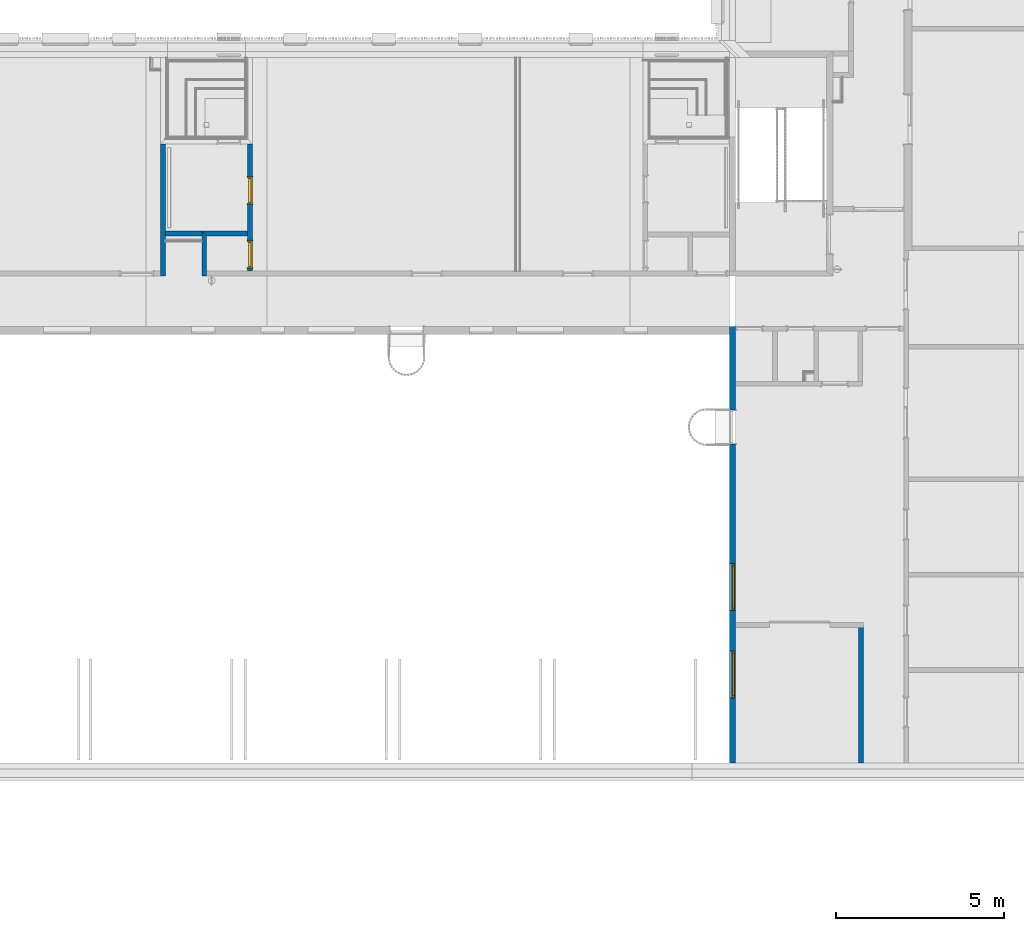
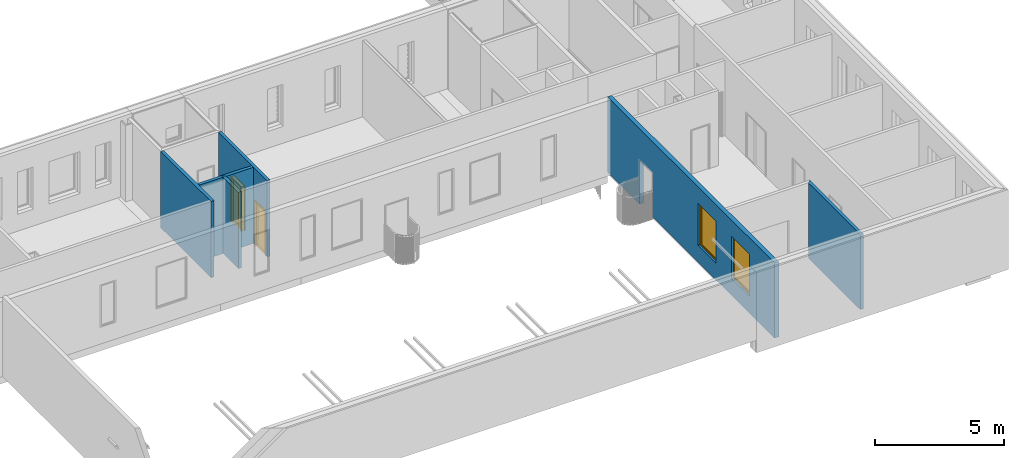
# One storey, part 7 of 100: 7 walls, 2 doors, 2 windows, 5 openings.
"""IFC2X3 building model written with IfcOpenShell, lengths in millimetres."""

from ifc_helpers import new_model, entity, si_unit, converted_unit, derived_unit, money_unit, direction, frame, origin_with_axes, origin_2d_with_axis, place, context, subcontext, project, spatial, polyline, rectangle, outline, extrude, open_shell, faceted_brep, surface_model, source, transform, mapped, material, layer, layer_set, layer_usage, type_object, element, fill, save


model = new_model("IFC2X3")

# Units and contexts
model_context = context("Model", 3, precision=0.01, world=origin_with_axes(), true_north=direction((0.0, 1.0)))
body_context = subcontext(model_context, "Body", "Model", "MODEL_VIEW")
ifc_project = project(units=[si_unit("LENGTHUNIT", "METRE", prefix="MILLI"), si_unit("AREAUNIT", "SQUARE_METRE"), si_unit("VOLUMEUNIT", "CUBIC_METRE"), converted_unit("PLANEANGLEUNIT", "DEGREE", entity("IfcPlaneAngleMeasure", 0.0174532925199), si_unit("PLANEANGLEUNIT", "RADIAN"), dimensions=[0, 0, 0, 0, 0, 0, 0]), si_unit("SOLIDANGLEUNIT", "STERADIAN"), money_unit("EUR"), converted_unit("TIMEUNIT", "Year", entity("IfcTimeMeasure", 31556926.0), si_unit("TIMEUNIT", "SECOND"), dimensions=[0, 0, 1, 0, 0, 0, 0]), si_unit("MASSUNIT", "GRAM", prefix="KILO"), si_unit("THERMODYNAMICTEMPERATUREUNIT", "DEGREE_CELSIUS"), si_unit("LUMINOUSINTENSITYUNIT", "LUMEN"), si_unit("ENERGYUNIT", "JOULE", prefix="MEGA"), derived_unit("THERMALCONDUCTANCEUNIT", [(si_unit("POWERUNIT", "WATT"), 1), (si_unit("LENGTHUNIT", "METRE"), -1), (si_unit("THERMODYNAMICTEMPERATUREUNIT", "KELVIN"), -1)]), derived_unit("SPECIFICHEATCAPACITYUNIT", [(si_unit("ENERGYUNIT", "JOULE"), 1), (si_unit("MASSUNIT", "GRAM", prefix="KILO"), -1), (si_unit("THERMODYNAMICTEMPERATUREUNIT", "KELVIN"), -1)]), derived_unit("MASSDENSITYUNIT", [(si_unit("MASSUNIT", "GRAM", prefix="KILO"), 1), (si_unit("VOLUMEUNIT", "CUBIC_METRE"), -1)])], contexts=[model_context])

# Site, building, storey
site_placement = place(None, origin_with_axes())
site = spatial("IfcSite", under=ifc_project, at=site_placement, Name="Politse- ja Piirivalveameti ning Päästeameti ühishoone", CompositionType="ELEMENT")
building_placement = place(site_placement, origin_with_axes())
building = spatial("IfcBuilding", under=site, at=building_placement, Name="Politse- ja Piirivalveameti ning Päästeameti ühishoone", CompositionType="ELEMENT")
storey_placement = place(building_placement, frame((0.0, 0.0, 3800.0), z_axis=(0.0, 0.0, 1.0), x_axis=(1.0, 0.0, 0.0)))
storey = spatial("IfcBuildingStorey", under=building, at=storey_placement, Name="Teine korrus", CompositionType="ELEMENT", Elevation=3800.0)

# Wall, openings, windows
ifc_material = material(Name="KON-05_Betoon Plokk - Konstuktsioon")
ifc_layer_1 = layer(ifc_material, 190.0, ventilated="UNKNOWN")
ifc_layer_set_1 = layer_set([ifc_layer_1], Name="SS-03_Sisesein 190")
ifc_layer_usage_1 = layer_usage(ifc_layer_set_1, "AXIS2", "POSITIVE", -190.0)
wall_type_1 = type_object("IfcWallType", Name="SS-03_Sisesein 190 190", PredefinedType="NOTDEFINED")
wall_1_placement = place(storey_placement, frame((60160.5519118, 13000.0198611, 0.0), z_axis=(0.0, 0.0, 1.0), x_axis=(0.0, -1.0, 0.0)))
wall_1 = element("IfcWallStandardCase", 1, at=wall_1_placement, inside=storey, type_object=wall_type_1, material=ifc_layer_usage_1, Name="SS-03", context=body_context, shape_type="SweptSolid", body=[
    extrude(outline(polyline([(0.0, -190.0), (13000.0198611, -190.0), (13000.0198611, 0.0), (0.0, 0.0), (0.0, -190.0)])), origin_with_axes(), (0.0, 0.0, 1.0), 3575.0),
])
opening_1_placement = place(wall_1_placement, frame((7758.22460403, 0.0, 800.0), z_axis=(0.0, 0.0, 1.0), x_axis=(1.0, 0.0, 0.0)))
opening_1 = element("IfcOpeningElement", 2, at=opening_1_placement, cuts=wall_1, Name="TA-02", context=body_context, shape_type="SweptSolid", body=[
    extrude(rectangle(XDim=1400.0, YDim=2000.0, at=origin_2d_with_axis()), frame((0.0, -110.0, 1000.0), z_axis=(0.0, 1.0, 0.0), x_axis=(-1.0, 0.0, 0.0)), (0.0, 0.0, 1.0), 300.0),
    extrude(rectangle(XDim=1400.0, YDim=2000.0, at=origin_2d_with_axis()), frame((0.0, -110.0, 1000.0), z_axis=(0.0, -1.0, 0.0), x_axis=(-1.0, 0.0, 0.0)), (0.0, 0.0, 1.0), 270.0),
])
opening_2_placement = place(wall_1_placement, frame((10358.4213478, 0.0, 800.0), z_axis=(0.0, 0.0, 1.0), x_axis=(1.0, 0.0, 0.0)))
opening_2 = element("IfcOpeningElement", 3, at=opening_2_placement, cuts=wall_1, Name="TA-02", context=body_context, shape_type="SweptSolid", body=[
    extrude(rectangle(XDim=1400.0, YDim=2000.0, at=origin_2d_with_axis()), frame((0.0, -110.0, 1000.0), z_axis=(0.0, 1.0, 0.0), x_axis=(-1.0, 0.0, 0.0)), (0.0, 0.0, 1.0), 300.0),
    extrude(rectangle(XDim=1400.0, YDim=2000.0, at=origin_2d_with_axis()), frame((0.0, -110.0, 1000.0), z_axis=(0.0, -1.0, 0.0), x_axis=(-1.0, 0.0, 0.0)), (0.0, 0.0, 1.0), 270.0),
])
opening_3_placement = place(wall_1_placement, frame((2996.3926058, 0.0, 0.0), z_axis=(0.0, 0.0, 1.0), x_axis=(1.0, 0.0, 0.0)))
element("IfcOpeningElement", 4, at=opening_3_placement, cuts=wall_1, Name="TU-01-9", context=body_context, shape_type="SweptSolid", body=[
    extrude(rectangle(XDim=1000.0, YDim=2100.0, at=origin_2d_with_axis()), frame((0.0, 190.0, 1050.0), z_axis=(0.0, -1.0, 0.0), x_axis=(-1.0, 0.0, 0.0)), (0.0, 0.0, 1.0), 570.0),
    extrude(rectangle(XDim=1074.0, YDim=2137.0, at=origin_2d_with_axis()), frame((0.0, 0.0, 1068.5), z_axis=(0.0, -1.0, 0.0), x_axis=(-1.0, 0.0, 0.0)), (0.0, 0.0, -1.0), 190.0),
    extrude(rectangle(XDim=1074.0, YDim=2137.0, at=origin_2d_with_axis()), frame((0.0, -190.0, 1068.5), z_axis=(0.0, 1.0, 0.0), x_axis=(-1.0, 0.0, 0.0)), (0.0, 0.0, -1.0), 190.0),
])
window_style = type_object("IfcWindowStyle", Name="Window 23", ConstructionType="NOTDEFINED", OperationType="SINGLE_PANEL", ParameterTakesPrecedence=False, Sizeable=False)
shared_shape_1 = source(origin_with_axes(), body_context, "Body", "SurfaceModel", [
    faceted_brep([(675.0, 0.0, 1950.0), (675.0, -25.0, 1950.0), (650.0, -25.0, 1950.0), (650.0, -50.0, 1950.0), (700.0, -50.0, 1950.0), (700.0, 0.0, 1950.0), (675.0, 0.0, 50.0), (675.0, -25.0, 50.0), (650.0, -25.0, 50.0), (650.0, -50.0, 50.0), (700.0, -50.0, 50.0), (700.0, 0.0, 50.0)], [[[0, 1, 2, 3, 4, 5]], [[1, 0, 6, 7]], [[8, 2, 1, 7]], [[2, 8, 9, 3]], [[4, 3, 9, 10]], [[5, 4, 10, 11]], [[6, 0, 5, 11]], [[7, 6, 11, 10, 9, 8]]]),
    faceted_brep([(-650.0, -25.0, 1950.0), (-675.0, -25.0, 1950.0), (-675.0, 0.0, 1950.0), (-700.0, 0.0, 1950.0), (-700.0, -50.0, 1950.0), (-650.0, -50.0, 1950.0), (-650.0, -25.0, 50.0), (-675.0, -25.0, 50.0), (-675.0, 0.0, 50.0), (-700.0, 0.0, 50.0), (-700.0, -50.0, 50.0), (-650.0, -50.0, 50.0)], [[[0, 1, 2, 3, 4, 5]], [[1, 0, 6, 7]], [[8, 2, 1, 7]], [[2, 8, 9, 3]], [[9, 10, 4, 3]], [[10, 11, 5, 4]], [[6, 0, 5, 11]], [[7, 6, 11, 10, 9, 8]]]),
    faceted_brep([(-650.0, -25.0, 50.0), (-675.0, -25.0, 50.0), (-675.0, 0.0, 50.0), (-700.0, 0.0, 50.0), (-700.0, -50.0, 50.0), (-650.0, -50.0, 50.0), (650.0, -25.0, 50.0), (675.0, -25.0, 50.0), (675.0, -25.0, 25.0), (-675.0, -25.0, 25.0), (-675.0, 0.0, 25.0), (675.0, 0.0, 25.0), (675.0, 0.0, 50.0), (700.0, 0.0, 50.0), (700.0, 0.0, 0.0), (-700.0, 0.0, 0.0), (-700.0, -50.0, 0.0), (700.0, -50.0, 50.0), (650.0, -50.0, 50.0), (700.0, -50.0, 0.0)], [[[0, 1, 2, 3, 4, 5]], [[1, 0, 6, 7, 8, 9]], [[10, 2, 1, 9]], [[11, 12, 13, 14, 15, 3, 2, 10]], [[15, 16, 4, 3]], [[17, 18, 5, 4, 16, 19]], [[6, 0, 5, 18]], [[7, 6, 18, 17, 13, 12]], [[7, 12, 11, 8]], [[11, 10, 9, 8]], [[13, 17, 19, 14]], [[14, 19, 16, 15]]]),
    faceted_brep([(675.0, 0.0, 1950.0), (675.0, 0.0, 1975.0), (-675.0, 0.0, 1975.0), (-675.0, 0.0, 1950.0), (-700.0, 0.0, 1950.0), (-700.0, 0.0, 2000.0), (700.0, 0.0, 2000.0), (700.0, 0.0, 1950.0), (675.0, -25.0, 1950.0), (675.0, -25.0, 1975.0), (-675.0, -25.0, 1975.0), (-675.0, -25.0, 1950.0), (-650.0, -25.0, 1950.0), (-650.0, -50.0, 1950.0), (-700.0, -50.0, 1950.0), (-700.0, -50.0, 2000.0), (700.0, -50.0, 2000.0), (700.0, -50.0, 1950.0), (650.0, -50.0, 1950.0), (650.0, -25.0, 1950.0)], [[[0, 1, 2, 3, 4, 5, 6, 7]], [[1, 0, 8, 9]], [[2, 1, 9, 10]], [[3, 2, 10, 11]], [[11, 12, 13, 14, 4, 3]], [[4, 14, 15, 5]], [[5, 15, 16, 6]], [[6, 16, 17, 7]], [[8, 0, 7, 17, 18, 19]], [[12, 11, 10, 9, 8, 19]], [[12, 19, 18, 13]], [[14, 13, 18, 17, 16, 15]]]),
    faceted_brep([(625.0, -25.0, 1925.0), (675.0, -25.0, 1925.0), (675.0, 25.0, 1925.0), (625.0, 25.0, 1925.0), (625.0, -25.0, 75.0), (675.0, -25.0, 75.0), (675.0, 25.0, 75.0), (625.0, 25.0, 75.0)], [[[0, 1, 2, 3]], [[0, 4, 5, 1]], [[1, 5, 6, 2]], [[3, 2, 6, 7]], [[4, 0, 3, 7]], [[5, 4, 7, 6]]]),
    faceted_brep([(-625.0, -25.0, 75.0), (-675.0, -25.0, 75.0), (-675.0, 25.0, 75.0), (-625.0, 25.0, 75.0), (-625.0, -25.0, 1925.0), (-675.0, -25.0, 1925.0), (-675.0, 25.0, 1925.0), (-625.0, 25.0, 1925.0)], [[[0, 1, 2, 3]], [[0, 4, 5, 1]], [[1, 5, 6, 2]], [[3, 2, 6, 7]], [[4, 0, 3, 7]], [[5, 4, 7, 6]]]),
    faceted_brep([(-675.0, -25.0, 25.0), (-675.0, -25.0, 75.0), (-675.0, 25.0, 75.0), (-675.0, 25.0, 25.0), (675.0, -25.0, 25.0), (675.0, -25.0, 75.0), (625.0, -25.0, 75.0), (-625.0, -25.0, 75.0), (-625.0, 25.0, 75.0), (625.0, 25.0, 75.0), (675.0, 25.0, 75.0), (675.0, 25.0, 25.0)], [[[0, 1, 2, 3]], [[0, 4, 5, 6, 7, 1]], [[1, 7, 8, 2]], [[3, 2, 8, 9, 10, 11]], [[4, 0, 3, 11]], [[5, 4, 11, 10]], [[6, 5, 10, 9]], [[7, 6, 9, 8]]]),
    faceted_brep([(675.0, -25.0, 1975.0), (675.0, -25.0, 1925.0), (675.0, 25.0, 1925.0), (675.0, 25.0, 1975.0), (-675.0, -25.0, 1975.0), (-675.0, -25.0, 1925.0), (-625.0, -25.0, 1925.0), (625.0, -25.0, 1925.0), (625.0, 25.0, 1925.0), (-625.0, 25.0, 1925.0), (-675.0, 25.0, 1925.0), (-675.0, 25.0, 1975.0)], [[[0, 1, 2, 3]], [[0, 4, 5, 6, 7, 1]], [[1, 7, 8, 2]], [[3, 2, 8, 9, 10, 11]], [[4, 0, 3, 11]], [[5, 4, 11, 10]], [[6, 5, 10, 9]], [[7, 6, 9, 8]]]),
    surface_model("IfcShellBasedSurfaceModel", [(625.0, -10.0, 75.0), (625.0, -10.0, 1925.0), (-625.0, -10.0, 1925.0), (-625.0, -10.0, 75.0)], [open_shell([[[0, 1, 2, 3]]])]),
    surface_model("IfcShellBasedSurfaceModel", [(625.0, 10.0, 75.0), (-625.0, 10.0, 75.0), (-625.0, 10.0, 1925.0), (625.0, 10.0, 1925.0)], [open_shell([[[0, 1, 2, 3]]])]),
])
window_1_placement = place(opening_1_placement, frame((-700.0, 0.0, 0.0), z_axis=(0.0, 0.0, 1.0), x_axis=(1.0, 0.0, 0.0)))
window_1 = element("IfcWindow", 5, at=window_1_placement, inside=storey, type_object=window_style, Name="TA-02", ObjectType="WINDOW", OverallHeight=2000.0, OverallWidth=1400.0, context=body_context, shape_type="MappedRepresentation", body=[
    mapped(shared_shape_1, transform((700.0, -60.0, 0.0))),
])
fill(opening_1, window_1)
window_2_placement = place(opening_2_placement, frame((-700.0, 0.0, 0.0), z_axis=(0.0, 0.0, 1.0), x_axis=(1.0, 0.0, 0.0)))
window_2 = element("IfcWindow", 6, at=window_2_placement, inside=storey, type_object=window_style, Name="TA-02", ObjectType="WINDOW", OverallHeight=2000.0, OverallWidth=1400.0, context=body_context, shape_type="MappedRepresentation", body=[
    mapped(shared_shape_1, transform((700.0, -60.0, 0.0))),
])
fill(opening_2, window_2)

# Walls
ifc_layer_2 = layer(ifc_material, 140.0, ventilated="UNKNOWN")
ifc_layer_set_2 = layer_set([ifc_layer_2], Name="SS-02_Sisesein 140")
ifc_layer_usage_2 = layer_usage(ifc_layer_set_2, "AXIS2", "NEGATIVE", 0.0)
wall_type_2 = type_object("IfcWallType", Name="SS-02_Sisesein 140 140", PredefinedType="NOTDEFINED")
wall_2_placement = place(storey_placement, frame((45773.4114692, 15690.0421528, 0.0), z_axis=(0.0, 0.0, 1.0), x_axis=(-1.0, 0.0, 0.0)))
element("IfcWallStandardCase", 7, at=wall_2_placement, inside=storey, type_object=wall_type_2, material=ifc_layer_usage_2, Name="SS-02", context=body_context, shape_type="SweptSolid", body=[
    extrude(outline(polyline([(140.0, -140.0), (1502.91487033, -140.0), (1362.91487033, 0.0), (140.0, 0.0), (140.0, -140.0)])), origin_with_axes(), (0.0, 0.0, 1.0), 3620.0),
])
ifc_layer_usage_3 = layer_usage(ifc_layer_set_2, "AXIS2", "NEGATIVE", 0.0)
wall_3_placement = place(storey_placement, frame((44410.4965988, 15690.0421528, 0.0), z_axis=(0.0, 0.0, 1.0), x_axis=(0.0, -1.0, 0.0)))
element("IfcWallStandardCase", 8, at=wall_3_placement, inside=storey, type_object=wall_type_2, material=ifc_layer_usage_3, Name="SS-02", context=body_context, shape_type="SweptSolid", body=[
    extrude(outline(polyline([(-140.0, -140.0), (1190.0, -140.0), (1190.0, 0.0), (0.0, 0.0), (-140.0, -140.0)])), origin_with_axes(), (0.0, 0.0, 1.0), 3620.0),
])
ifc_layer_usage_4 = layer_usage(ifc_layer_set_2, "AXIS2", "NEGATIVE", 0.0)
wall_4_placement = place(storey_placement, frame((63960.5595507, 4040.01986111, 0.0), z_axis=(0.0, 0.0, 1.0), x_axis=(0.0, -1.0, 0.0)))
element("IfcWallStandardCase", 9, at=wall_4_placement, inside=storey, type_object=wall_type_2, material=ifc_layer_usage_4, Name="SS-02", context=body_context, shape_type="SweptSolid", body=[
    extrude(outline(polyline([(0.0, -140.0), (4040.01986111, -140.0), (4040.01986111, 0.0), (-140.0, 0.0), (0.0, -140.0)])), origin_with_axes(), (0.0, 0.0, 1.0), 3575.0),
])
ifc_layer_usage_5 = layer_usage(ifc_layer_set_2, "AXIS2", "NEGATIVE", 0.0)
wall_5_placement = place(storey_placement, frame((43183.4114692, 18430.0421528, 0.0), z_axis=(0.0, 0.0, 1.0), x_axis=(0.0, -1.0, 0.0)))
element("IfcWallStandardCase", 10, at=wall_5_placement, inside=storey, type_object=wall_type_2, material=ifc_layer_usage_5, Name="SS-02", context=body_context, shape_type="SweptSolid", body=[
    extrude(outline(polyline([(0.0, -140.0), (3930.0, -140.0), (3930.0, 0.0), (0.0, 0.0), (0.0, -140.0)])), origin_with_axes(), (0.0, 0.0, 1.0), 3620.0),
])

# Wall, openings, doors
ifc_layer_usage_6 = layer_usage(ifc_layer_set_2, "AXIS2", "NEGATIVE", 0.0)
wall_6_placement = place(storey_placement, frame((45773.4114692, 18430.0421528, 0.0), z_axis=(0.0, 0.0, 1.0), x_axis=(0.0, -1.0, 0.0)))
wall_6 = element("IfcWallStandardCase", 11, at=wall_6_placement, inside=storey, type_object=wall_type_2, material=ifc_layer_usage_6, Name="SS-02", context=body_context, shape_type="SweptSolid", body=[
    extrude(outline(polyline([(0.0, -140.0), (3790.0, -140.0), (3790.0, 0.0), (0.0, 0.0), (0.0, -140.0)])), origin_with_axes(), (0.0, 0.0, 1.0), 3620.0),
])
opening_4_placement = place(wall_6_placement, frame((3289.70410351, 0.0, 0.0), z_axis=(0.0, 0.0, 1.0), x_axis=(1.0, 0.0, 0.0)))
opening_4 = element("IfcOpeningElement", 12, at=opening_4_placement, cuts=wall_6, Name="SU-02-1", context=body_context, shape_type="SweptSolid", body=[
    extrude(rectangle(XDim=800.0, YDim=2100.0, at=origin_2d_with_axis()), frame((0.0, -140.0, 1050.0), z_axis=(0.0, 1.0, 0.0), x_axis=(1.0, 0.0, 0.0)), (0.0, 0.0, 1.0), 420.0),
    extrude(rectangle(XDim=874.0, YDim=2137.0, at=origin_2d_with_axis()), frame((0.0, -140.0, 1068.5), z_axis=(0.0, 1.0, 0.0), x_axis=(1.0, 0.0, 0.0)), (0.0, 0.0, -1.0), 140.0),
    extrude(rectangle(XDim=874.0, YDim=2137.0, at=origin_2d_with_axis()), frame((0.0, 0.0, 1068.5), z_axis=(0.0, -1.0, 0.0), x_axis=(1.0, 0.0, 0.0)), (0.0, 0.0, -1.0), 140.0),
])
opening_5_placement = place(wall_6_placement, frame((1389.81854322, 0.0, 0.0), z_axis=(0.0, 0.0, 1.0), x_axis=(1.0, 0.0, 0.0)))
opening_5 = element("IfcOpeningElement", 13, at=opening_5_placement, cuts=wall_6, Name="SU-01-5", context=body_context, shape_type="SweptSolid", body=[
    extrude(rectangle(XDim=800.0, YDim=2100.0, at=origin_2d_with_axis()), frame((0.0, -140.0, 1050.0), z_axis=(0.0, -1.0, 0.0), x_axis=(-1.0, 0.0, 0.0)), (0.0, 0.0, -1.0), 420.0),
    extrude(rectangle(XDim=874.0, YDim=2137.0, at=origin_2d_with_axis()), frame((0.0, -140.0, 1068.5), z_axis=(0.0, -1.0, 0.0), x_axis=(-1.0, 0.0, 0.0)), (0.0, 0.0, 1.0), 140.0),
    extrude(rectangle(XDim=874.0, YDim=2137.0, at=origin_2d_with_axis()), frame((0.0, 0.0, 1068.5), z_axis=(0.0, 1.0, 0.0), x_axis=(-1.0, 0.0, 0.0)), (0.0, 0.0, 1.0), 140.0),
])
door_style_1 = type_object("IfcDoorStyle", Name="Door 23", ConstructionType="NOTDEFINED", OperationType="SINGLE_SWING_RIGHT", ParameterTakesPrecedence=False, Sizeable=False)
shared_shape_2 = source(origin_with_axes(), body_context, "Body", "Brep", [
    faceted_brep([(372.0, -40.0, 0.0), (372.0, -40.0, 12.0), (360.0, -40.0, 12.0), (360.0, -40.0, 0.0), (-372.0, -40.0, 0.0), (-372.0, -40.0, 12.0), (-360.0, -40.0, 12.0), (-360.0, -115.0, 12.0), (360.0, -115.0, 12.0), (360.0, -115.0, 0.0), (-360.0, -115.0, 0.0), (-360.0, -40.0, 0.0)], [[[0, 1, 2, 3]], [[4, 5, 1, 0]], [[1, 5, 6, 7, 8, 2]], [[3, 2, 8, 9]], [[0, 3, 9, 10, 11, 4]], [[11, 6, 5, 4]], [[10, 7, 6, 11]], [[9, 8, 7, 10]]]),
    faceted_brep([(-400.0, -115.0, 0.0), (-375.0, -115.0, 0.0), (-375.0, -140.0, 0.0), (-400.0, -140.0, 0.0), (-400.0, -115.0, 2100.0), (-375.0, -115.0, 2075.0), (-375.0, -140.0, 2075.0), (-400.0, -140.0, 2100.0)], [[[0, 1, 2, 3]], [[0, 4, 5, 1]], [[1, 5, 6, 2]], [[3, 2, 6, 7]], [[4, 0, 3, 7]], [[5, 4, 7, 6]]]),
    faceted_brep([(400.0, -115.0, 2100.0), (375.0, -115.0, 2075.0), (375.0, -140.0, 2075.0), (400.0, -140.0, 2100.0), (400.0, -115.0, 0.0), (375.0, -115.0, 0.0), (375.0, -140.0, 0.0), (400.0, -140.0, 0.0)], [[[0, 1, 2, 3]], [[0, 4, 5, 1]], [[1, 5, 6, 2]], [[3, 2, 6, 7]], [[4, 0, 3, 7]], [[5, 4, 7, 6]]]),
    faceted_brep([(-375.0, -115.0, 2075.0), (375.0, -115.0, 2075.0), (375.0, -140.0, 2075.0), (-375.0, -140.0, 2075.0), (-400.0, -115.0, 2100.0), (400.0, -115.0, 2100.0), (400.0, -140.0, 2100.0), (-400.0, -140.0, 2100.0)], [[[0, 1, 2, 3]], [[0, 4, 5, 1]], [[1, 5, 6, 2]], [[3, 2, 6, 7]], [[4, 0, 3, 7]], [[5, 4, 7, 6]]]),
    faceted_brep([(-437.0, -159.0, 0.0), (-437.0, -140.0, 0.0), (-387.0, -140.0, 0.0), (-387.0, -159.0, 0.0), (-437.0, -159.0, 2137.0), (-437.0, -140.0, 2137.0), (-387.0, -140.0, 2087.0), (-387.0, -159.0, 2087.0)], [[[0, 1, 2, 3]], [[4, 5, 1, 0]], [[1, 5, 6, 2]], [[3, 2, 6, 7]], [[0, 3, 7, 4]], [[7, 6, 5, 4]]]),
    faceted_brep([(437.0, -159.0, 2137.0), (437.0, -140.0, 2137.0), (387.0, -140.0, 2087.0), (387.0, -159.0, 2087.0), (437.0, -159.0, 0.0), (437.0, -140.0, 0.0), (387.0, -140.0, 0.0), (387.0, -159.0, 0.0)], [[[0, 1, 2, 3]], [[4, 5, 1, 0]], [[1, 5, 6, 2]], [[3, 2, 6, 7]], [[0, 3, 7, 4]], [[7, 6, 5, 4]]]),
    faceted_brep([(-437.0, -159.0, 2137.0), (-437.0, -140.0, 2137.0), (-387.0, -140.0, 2087.0), (-387.0, -159.0, 2087.0), (437.0, -159.0, 2137.0), (437.0, -140.0, 2137.0), (387.0, -140.0, 2087.0), (387.0, -159.0, 2087.0)], [[[0, 1, 2, 3]], [[4, 5, 1, 0]], [[1, 5, 6, 2]], [[3, 2, 6, 7]], [[0, 3, 7, 4]], [[7, 6, 5, 4]]]),
    faceted_brep([(-437.0, 19.0, 0.0), (-387.0, 19.0, 0.0), (-387.0, 0.0, 0.0), (-437.0, 0.0, 0.0), (-437.0, 19.0, 2137.0), (-387.0, 19.0, 2087.0), (-387.0, 0.0, 2087.0), (-437.0, 0.0, 2137.0)], [[[0, 1, 2, 3]], [[0, 4, 5, 1]], [[1, 5, 6, 2]], [[3, 2, 6, 7]], [[4, 0, 3, 7]], [[5, 4, 7, 6]]]),
    faceted_brep([(437.0, 19.0, 2137.0), (387.0, 19.0, 2087.0), (387.0, 0.0, 2087.0), (437.0, 0.0, 2137.0), (437.0, 19.0, 0.0), (387.0, 19.0, 0.0), (387.0, 0.0, 0.0), (437.0, 0.0, 0.0)], [[[0, 1, 2, 3]], [[0, 4, 5, 1]], [[1, 5, 6, 2]], [[3, 2, 6, 7]], [[4, 0, 3, 7]], [[5, 4, 7, 6]]]),
    faceted_brep([(-437.0, 19.0, 2137.0), (-387.0, 19.0, 2087.0), (-387.0, 0.0, 2087.0), (-437.0, 0.0, 2137.0), (437.0, 19.0, 2137.0), (387.0, 19.0, 2087.0), (387.0, 0.0, 2087.0), (437.0, 0.0, 2137.0)], [[[0, 1, 2, 3]], [[0, 4, 5, 1]], [[1, 5, 6, 2]], [[3, 2, 6, 7]], [[4, 0, 3, 7]], [[5, 4, 7, 6]]]),
    faceted_brep([(-360.0, -40.0, 0.0), (-360.0, -40.0, 2060.0), (-360.0, -115.0, 2060.0), (-360.0, -115.0, 0.0), (-372.0, -40.0, 2060.0), (-372.0, -40.0, 0.0), (-372.0, 0.0, 2060.0), (-400.0, 0.0, 2060.0), (-400.0, -115.0, 2060.0), (-400.0, -115.0, 0.0), (-400.0, 0.0, 0.0), (-372.0, 0.0, 0.0)], [[[0, 1, 2, 3]], [[4, 1, 0, 5]], [[4, 6, 7, 8, 2, 1]], [[3, 2, 8, 9]], [[5, 0, 3, 9, 10, 11]], [[6, 4, 5, 11]], [[6, 11, 10, 7]], [[10, 9, 8, 7]]]),
    faceted_brep([(372.0, -40.0, 2060.0), (360.0, -40.0, 2060.0), (360.0, -115.0, 2060.0), (400.0, -115.0, 2060.0), (400.0, 0.0, 2060.0), (372.0, 0.0, 2060.0), (372.0, -40.0, 0.0), (360.0, -40.0, 0.0), (360.0, -115.0, 0.0), (400.0, -115.0, 0.0), (400.0, 0.0, 0.0), (372.0, 0.0, 0.0)], [[[0, 1, 2, 3, 4, 5]], [[1, 0, 6, 7]], [[1, 7, 8, 2]], [[3, 2, 8, 9]], [[4, 3, 9, 10]], [[11, 5, 4, 10]], [[0, 5, 11, 6]], [[6, 11, 10, 9, 8, 7]]]),
    faceted_brep([(-372.0, 0.0, 2072.0), (-372.0, 0.0, 2060.0), (-400.0, 0.0, 2060.0), (-400.0, 0.0, 2100.0), (400.0, 0.0, 2100.0), (400.0, 0.0, 2060.0), (372.0, 0.0, 2060.0), (372.0, 0.0, 2072.0), (-372.0, -40.0, 2072.0), (-372.0, -40.0, 2060.0), (-360.0, -40.0, 2060.0), (-360.0, -115.0, 2060.0), (-400.0, -115.0, 2060.0), (-400.0, -115.0, 2100.0), (400.0, -115.0, 2100.0), (400.0, -115.0, 2060.0), (372.0, -40.0, 2060.0), (360.0, -115.0, 2060.0), (360.0, -40.0, 2060.0), (372.0, -40.0, 2072.0)], [[[0, 1, 2, 3, 4, 5, 6, 7]], [[1, 0, 8, 9]], [[9, 10, 11, 12, 2, 1]], [[2, 12, 13, 3]], [[3, 13, 14, 4]], [[4, 14, 15, 5]], [[16, 6, 5, 15, 17, 18]], [[7, 6, 16, 19]], [[0, 7, 19, 8]], [[16, 18, 10, 9, 8, 19]], [[10, 18, 17, 11]], [[17, 15, 14, 13, 12, 11]]]),
    faceted_brep([(372.0, 0.0, 0.0), (372.0, -40.0, 0.0), (-372.0, -40.0, 0.0), (-372.0, 0.0, 0.0), (372.0, 0.0, 2072.0), (372.0, -40.0, 2072.0), (-372.0, -40.0, 2072.0), (-372.0, 0.0, 2072.0)], [[[0, 1, 2, 3]], [[4, 5, 1, 0]], [[1, 5, 6, 2]], [[3, 2, 6, 7]], [[0, 3, 7, 4]], [[7, 6, 5, 4]]]),
])
door_1_placement = place(opening_4_placement, frame((-400.0, 0.0, 0.0), z_axis=(0.0, 0.0, 1.0), x_axis=(1.0, 0.0, 0.0)))
door_1 = element("IfcDoor", 14, at=door_1_placement, inside=storey, type_object=door_style_1, Name="SU-02-1", ObjectType="DOOR", OverallHeight=2100.0, OverallWidth=800.0, context=body_context, shape_type="MappedRepresentation", body=[
    mapped(shared_shape_2, transform((400.0, 0.0, 0.0))),
])
fill(opening_4, door_1)
door_style_2 = type_object("IfcDoorStyle", Name="Door 23", ConstructionType="NOTDEFINED", OperationType="SINGLE_SWING_LEFT", ParameterTakesPrecedence=False, Sizeable=False)
shared_shape_3 = source(origin_with_axes(), body_context, "Body", "Brep", [
    faceted_brep([(-372.0, -40.0, 0.0), (-360.0, -40.0, 0.0), (-360.0, -40.0, 12.0), (-372.0, -40.0, 12.0), (372.0, -40.0, 0.0), (360.0, -40.0, 0.0), (360.0, -115.0, 0.0), (-360.0, -115.0, 0.0), (-360.0, -115.0, 12.0), (360.0, -115.0, 12.0), (360.0, -40.0, 12.0), (372.0, -40.0, 12.0)], [[[0, 1, 2, 3]], [[0, 4, 5, 6, 7, 1]], [[1, 7, 8, 2]], [[3, 2, 8, 9, 10, 11]], [[4, 0, 3, 11]], [[5, 4, 11, 10]], [[6, 5, 10, 9]], [[7, 6, 9, 8]]]),
    faceted_brep([(400.0, -115.0, 0.0), (400.0, -140.0, 0.0), (375.0, -140.0, 0.0), (375.0, -115.0, 0.0), (400.0, -115.0, 2100.0), (400.0, -140.0, 2100.0), (375.0, -140.0, 2075.0), (375.0, -115.0, 2075.0)], [[[0, 1, 2, 3]], [[4, 5, 1, 0]], [[1, 5, 6, 2]], [[3, 2, 6, 7]], [[0, 3, 7, 4]], [[7, 6, 5, 4]]]),
    faceted_brep([(-400.0, -115.0, 2100.0), (-400.0, -140.0, 2100.0), (-375.0, -140.0, 2075.0), (-375.0, -115.0, 2075.0), (-400.0, -115.0, 0.0), (-400.0, -140.0, 0.0), (-375.0, -140.0, 0.0), (-375.0, -115.0, 0.0)], [[[0, 1, 2, 3]], [[4, 5, 1, 0]], [[1, 5, 6, 2]], [[3, 2, 6, 7]], [[0, 3, 7, 4]], [[7, 6, 5, 4]]]),
    faceted_brep([(375.0, -115.0, 2075.0), (375.0, -140.0, 2075.0), (-375.0, -140.0, 2075.0), (-375.0, -115.0, 2075.0), (400.0, -115.0, 2100.0), (400.0, -140.0, 2100.0), (-400.0, -140.0, 2100.0), (-400.0, -115.0, 2100.0)], [[[0, 1, 2, 3]], [[4, 5, 1, 0]], [[1, 5, 6, 2]], [[3, 2, 6, 7]], [[0, 3, 7, 4]], [[7, 6, 5, 4]]]),
    faceted_brep([(437.0, -159.0, 0.0), (387.0, -159.0, 0.0), (387.0, -140.0, 0.0), (437.0, -140.0, 0.0), (437.0, -159.0, 2137.0), (387.0, -159.0, 2087.0), (387.0, -140.0, 2087.0), (437.0, -140.0, 2137.0)], [[[0, 1, 2, 3]], [[0, 4, 5, 1]], [[1, 5, 6, 2]], [[3, 2, 6, 7]], [[4, 0, 3, 7]], [[5, 4, 7, 6]]]),
    faceted_brep([(-437.0, -159.0, 2137.0), (-387.0, -159.0, 2087.0), (-387.0, -140.0, 2087.0), (-437.0, -140.0, 2137.0), (-437.0, -159.0, 0.0), (-387.0, -159.0, 0.0), (-387.0, -140.0, 0.0), (-437.0, -140.0, 0.0)], [[[0, 1, 2, 3]], [[0, 4, 5, 1]], [[1, 5, 6, 2]], [[3, 2, 6, 7]], [[4, 0, 3, 7]], [[5, 4, 7, 6]]]),
    faceted_brep([(437.0, -159.0, 2137.0), (387.0, -159.0, 2087.0), (387.0, -140.0, 2087.0), (437.0, -140.0, 2137.0), (-437.0, -159.0, 2137.0), (-387.0, -159.0, 2087.0), (-387.0, -140.0, 2087.0), (-437.0, -140.0, 2137.0)], [[[0, 1, 2, 3]], [[0, 4, 5, 1]], [[1, 5, 6, 2]], [[3, 2, 6, 7]], [[4, 0, 3, 7]], [[5, 4, 7, 6]]]),
    faceted_brep([(437.0, 19.0, 0.0), (437.0, 0.0, 0.0), (387.0, 0.0, 0.0), (387.0, 19.0, 0.0), (437.0, 19.0, 2137.0), (437.0, 0.0, 2137.0), (387.0, 0.0, 2087.0), (387.0, 19.0, 2087.0)], [[[0, 1, 2, 3]], [[4, 5, 1, 0]], [[1, 5, 6, 2]], [[3, 2, 6, 7]], [[0, 3, 7, 4]], [[7, 6, 5, 4]]]),
    faceted_brep([(-437.0, 19.0, 2137.0), (-437.0, 0.0, 2137.0), (-387.0, 0.0, 2087.0), (-387.0, 19.0, 2087.0), (-437.0, 19.0, 0.0), (-437.0, 0.0, 0.0), (-387.0, 0.0, 0.0), (-387.0, 19.0, 0.0)], [[[0, 1, 2, 3]], [[4, 5, 1, 0]], [[1, 5, 6, 2]], [[3, 2, 6, 7]], [[0, 3, 7, 4]], [[7, 6, 5, 4]]]),
    faceted_brep([(437.0, 19.0, 2137.0), (437.0, 0.0, 2137.0), (387.0, 0.0, 2087.0), (387.0, 19.0, 2087.0), (-437.0, 19.0, 2137.0), (-437.0, 0.0, 2137.0), (-387.0, 0.0, 2087.0), (-387.0, 19.0, 2087.0)], [[[0, 1, 2, 3]], [[4, 5, 1, 0]], [[1, 5, 6, 2]], [[3, 2, 6, 7]], [[0, 3, 7, 4]], [[7, 6, 5, 4]]]),
    faceted_brep([(360.0, -40.0, 0.0), (360.0, -115.0, 0.0), (360.0, -115.0, 2060.0), (360.0, -40.0, 2060.0), (372.0, -40.0, 0.0), (372.0, 0.0, 0.0), (400.0, 0.0, 0.0), (400.0, -115.0, 0.0), (400.0, -115.0, 2060.0), (372.0, -40.0, 2060.0), (400.0, 0.0, 2060.0), (372.0, 0.0, 2060.0)], [[[0, 1, 2, 3]], [[4, 5, 6, 7, 1, 0]], [[1, 7, 8, 2]], [[9, 3, 2, 8, 10, 11]], [[9, 4, 0, 3]], [[11, 5, 4, 9]], [[11, 10, 6, 5]], [[6, 10, 8, 7]]]),
    faceted_brep([(-372.0, -40.0, 2060.0), (-372.0, 0.0, 2060.0), (-400.0, 0.0, 2060.0), (-400.0, -115.0, 2060.0), (-360.0, -115.0, 2060.0), (-360.0, -40.0, 2060.0), (-372.0, -40.0, 0.0), (-372.0, 0.0, 0.0), (-400.0, 0.0, 0.0), (-400.0, -115.0, 0.0), (-360.0, -115.0, 0.0), (-360.0, -40.0, 0.0)], [[[0, 1, 2, 3, 4, 5]], [[0, 6, 7, 1]], [[7, 8, 2, 1]], [[2, 8, 9, 3]], [[3, 9, 10, 4]], [[5, 4, 10, 11]], [[5, 11, 6, 0]], [[6, 11, 10, 9, 8, 7]]]),
    faceted_brep([(372.0, 0.0, 2072.0), (-372.0, 0.0, 2072.0), (-372.0, 0.0, 2060.0), (-400.0, 0.0, 2060.0), (-400.0, 0.0, 2100.0), (400.0, 0.0, 2100.0), (400.0, 0.0, 2060.0), (372.0, 0.0, 2060.0), (372.0, -40.0, 2072.0), (-372.0, -40.0, 2072.0), (-372.0, -40.0, 2060.0), (-360.0, -40.0, 2060.0), (-360.0, -115.0, 2060.0), (-400.0, -115.0, 2060.0), (-400.0, -115.0, 2100.0), (400.0, -115.0, 2100.0), (400.0, -115.0, 2060.0), (372.0, -40.0, 2060.0), (360.0, -115.0, 2060.0), (360.0, -40.0, 2060.0)], [[[0, 1, 2, 3, 4, 5, 6, 7]], [[0, 8, 9, 1]], [[1, 9, 10, 2]], [[10, 11, 12, 13, 3, 2]], [[4, 3, 13, 14]], [[5, 4, 14, 15]], [[6, 5, 15, 16]], [[17, 7, 6, 16, 18, 19]], [[7, 17, 8, 0]], [[10, 9, 8, 17, 19, 11]], [[19, 18, 12, 11]], [[12, 18, 16, 15, 14, 13]]]),
    faceted_brep([(-372.0, 0.0, 0.0), (372.0, 0.0, 0.0), (372.0, -40.0, 0.0), (-372.0, -40.0, 0.0), (-372.0, 0.0, 2072.0), (372.0, 0.0, 2072.0), (372.0, -40.0, 2072.0), (-372.0, -40.0, 2072.0)], [[[0, 1, 2, 3]], [[0, 4, 5, 1]], [[1, 5, 6, 2]], [[3, 2, 6, 7]], [[4, 0, 3, 7]], [[5, 4, 7, 6]]]),
])
door_2_placement = place(opening_5_placement, frame((-400.0, 0.0, 0.0), z_axis=(0.0, 0.0, 1.0), x_axis=(1.0, 0.0, 0.0)))
door_2 = element("IfcDoor", 15, at=door_2_placement, inside=storey, type_object=door_style_2, Name="SU-01-5", ObjectType="DOOR", OverallHeight=2100.0, OverallWidth=800.0, context=body_context, shape_type="MappedRepresentation", body=[
    mapped(shared_shape_3, transform((400.0, 0.0, 0.0))),
])
fill(opening_5, door_2)

# Wall
ifc_layer_usage_7 = layer_usage(ifc_layer_set_2, "AXIS2", "NEGATIVE", 0.0)
wall_7_placement = place(storey_placement, frame((44410.4965988, 15690.0421528, 0.0), z_axis=(0.0, 0.0, 1.0), x_axis=(-1.0, 0.0, 0.0)))
element("IfcWallStandardCase", 16, at=wall_7_placement, inside=storey, type_object=wall_type_2, material=ifc_layer_usage_7, Name="SS-02", context=body_context, shape_type="SweptSolid", body=[
    extrude(outline(polyline([(140.0, -140.0), (1227.08512967, -140.0), (1227.08512967, 0.0), (140.0, 0.0), (140.0, -140.0)])), origin_with_axes(), (0.0, 0.0, 1.0), 3620.0),
])

save(model, "model.ifc")
